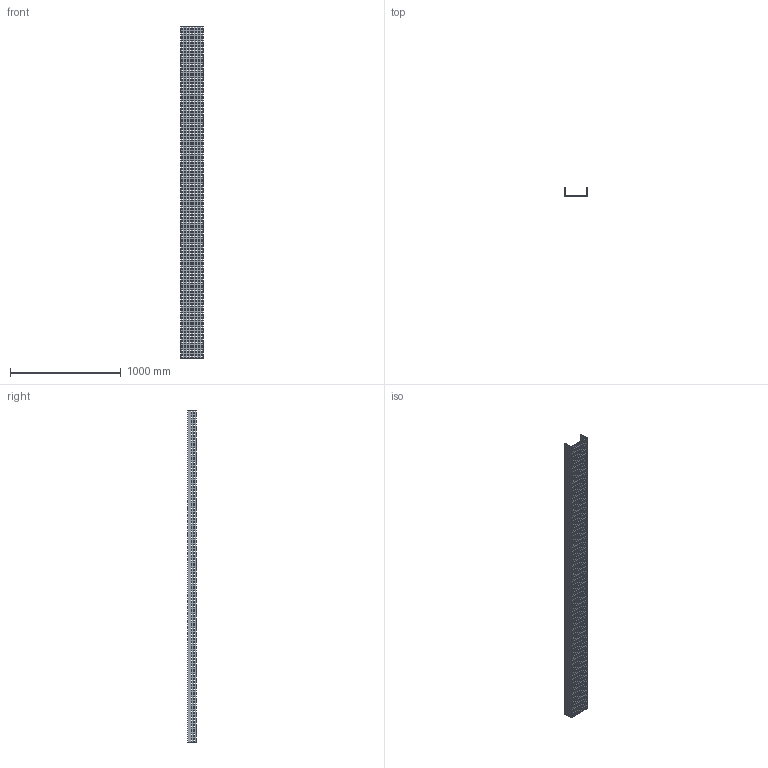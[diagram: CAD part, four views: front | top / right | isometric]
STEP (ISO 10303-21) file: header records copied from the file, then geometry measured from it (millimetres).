
FILE_DESCRIPTION (( 'STEP AP214' ), '1' );
FILE_NAME ('01B3C200.step', '2025-02-21T10:19:07', ( '' ), ( '' ), 'SwSTEP 2.0', 'SolidWorks 2023', '' );
FILE_SCHEMA (( 'AUTOMOTIVE_DESIGN' ));
Length unit declared in the file: millimetre
Products named in the file (1): 01B3C200
Bounding box: 204 x 79 x 3000 mm (x, y, z)
Volume: 3198300 mm3; surface area: 2044621 mm2
Topology: 1 solids, 1 shells, 3466 faces, 10392 edges, 6928 vertices
Faces by surface type: plane 3466
Entity records: 117815 total; most frequent: CARTESIAN_POINT 20787, ORIENTED_EDGE 20784, DIRECTION 17326, LINE 10392, EDGE_CURVE 10392, VECTOR 10392, VERTEX_POINT 6928, EDGE_LOOP 5194
